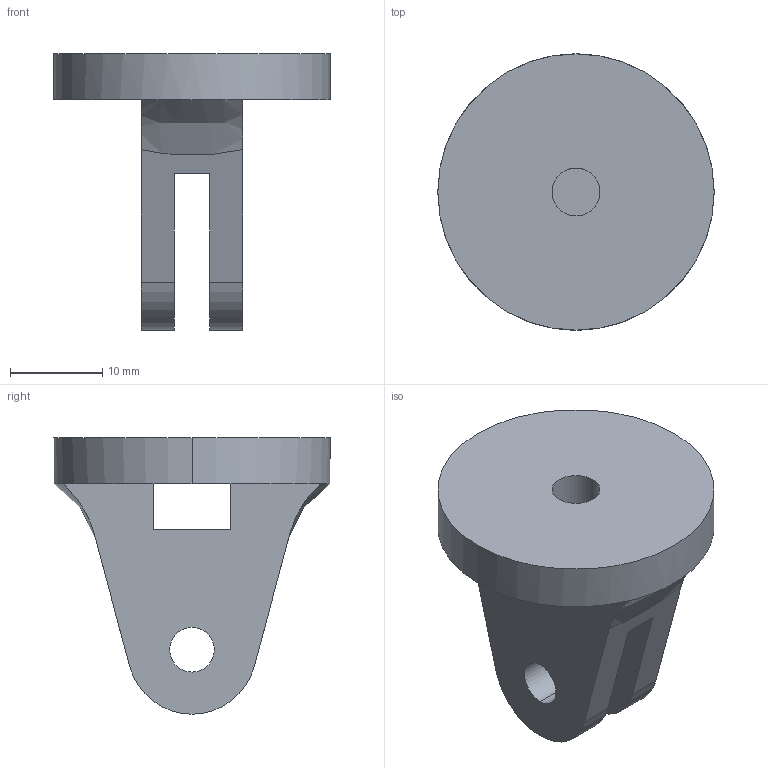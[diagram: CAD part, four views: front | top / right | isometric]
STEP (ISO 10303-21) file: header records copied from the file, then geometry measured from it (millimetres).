
FILE_DESCRIPTION (( 'STEP AP203' ), '1' );
FILE_NAME ('ara parça.STEP', '2016-11-03T14:13:59', ( '' ), ( '' ), 'SwSTEP 2.0', 'SolidWorks 2015', '' );
FILE_SCHEMA (( 'CONFIG_CONTROL_DESIGN' ));
Length unit declared in the file: millimetre
Products named in the file (1): ara parça
Bounding box: 30 x 30 x 30 mm (x, y, z)
Volume: 6659.3 mm3; surface area: 3803.1 mm2
Topology: 1 solids, 1 shells, 26 faces, 74 edges, 48 vertices
Faces by surface type: cylinder 12, plane 12, bspline 2
Entity records: 1079 total; most frequent: CARTESIAN_POINT 301, ORIENTED_EDGE 148, DIRECTION 146, EDGE_CURVE 74, AXIS2_PLACEMENT_3D 53, VERTEX_POINT 48, LINE 40, VECTOR 40
